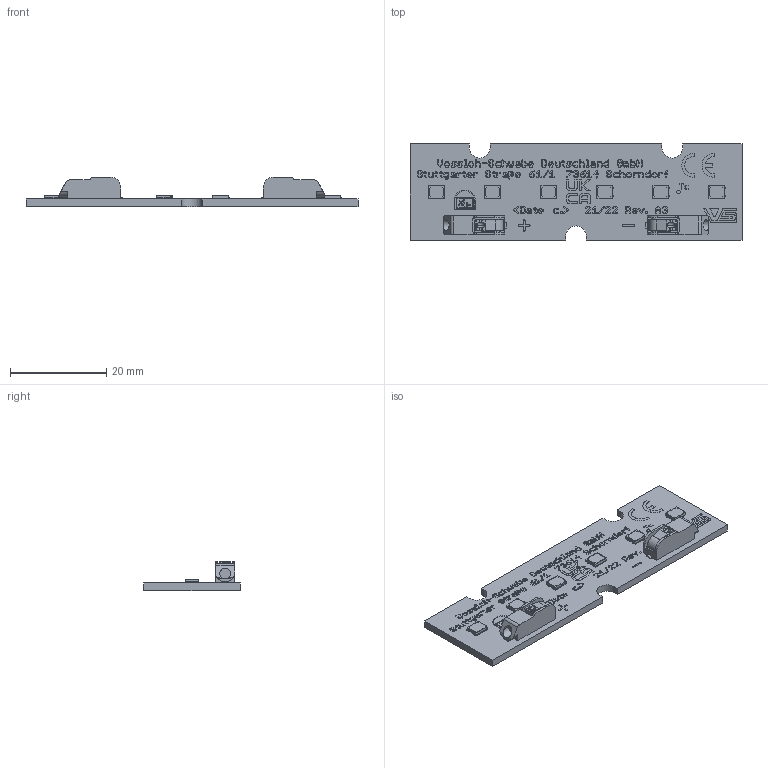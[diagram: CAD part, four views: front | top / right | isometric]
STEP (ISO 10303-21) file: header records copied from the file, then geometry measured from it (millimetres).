
FILE_DESCRIPTION(('Creo Elements/Direct Modeling STEP Export'),'2;1');
FILE_NAME('3D-Model_WU-M-730-TC.pkg.stp','2024-12-04T10:09:00',(''),(''),'PTC Creo Elements/Direct Modeling STEP processor for AP214 (Solid Model)','PTC Creo Elements/Direct Modeling 19.0E 27-Jun-2016 (C) Parametric Technology GmbH','');
FILE_SCHEMA(('AUTOMOTIVE_DESIGN { 1 0 10303 214 1 1 1 1 }'));
Length unit declared in the file: millimetre
Products named in the file (120): ______STEP.ASM; _____-0_STEP.PRT; _____-0_STEP.PRT.1; 2835PCT_3D_MODEL_STEP.ASM; 2835PCT_3D_MODEL_ORIGIN_CORRECT.ASM; J_SERIES_2835.STEP; P1-220.PRT; ______STEP_ASM.ASM; 2835PCT_3D_MODEL_STEP_ASM.ASM; J_SERIES_2835_STEP.ASM; P1_15.PRT; P1_11.PRT; P1_14.PRT; P1_6.PRT; P1_13.PRT; P1_10.PRT; P1_12.PRT; P1_8.PRT; P1_9.PRT; P1_16.PRT; P1_7.PRT; P1_83.PRT; P1_87.PRT; P1_89.PRT; P1_85.PRT; P1_88.PRT; P1_84.PRT; P1_86.PRT; P1_82.PRT; P1_81.PRT; P1_91.PRT; P1_90.PRT; P1_27.PRT; P1_25.PRT; P1_24.PRT; P1_21.PRT; P1_19.PRT; P1_22.PRT; P1_26.PRT; P1_20.PRT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
Assembly tree (122 placements, depth 5):
  J_SERIES_2835.STEP
    2835PCT_3D_MODEL_ORIGIN_CORRECT.ASM
      2835PCT_3D_MODEL_STEP.ASM
        _____-0_STEP.PRT.1  x3
        _____-0_STEP.PRT  x3
        ______STEP.ASM
  3D-MODEL_WU-M-730-TC_PKG.stp
    2060-451_998-404_STP.ASM
      2060-451_998-404_PRT.PRT
      2060-451_998-404_PRT_1.PRT
    3D-PLATE_WU-M-730.PRT
    3D-TEXT.ASM
      P1_31.PRT
      P1_29.PRT
      P1_32.PRT
      P1_33.PRT
      P1_34.PRT
      P1_37.PRT
      P1_35.PRT
      P1_30.PRT
      P1_36.PRT
      P1_28.PRT
      P1_38.PRT
      P1-429380.PRT
      P1_78.PRT
      P1_70.PRT
      P1_80.PRT
      P1_73.PRT
      P1_76.PRT
      P1_72.PRT
      P1_77.PRT
      P1_75.PRT
      P1_79.PRT
      P1_71.PRT
      P1_74.PRT
      P1_4.PRT
      P1_5.PRT
      P1_2.PRT
      P1_1.PRT
      P1_3.PRT
      P1_61.PRT
      P1_60.PRT
      P1_66.PRT
      P1_64.PRT
      P1_62.PRT
      P1_63.PRT
      P1_65.PRT
      P1_67.PRT
      P1_69.PRT
      P1_68.PRT
      P1_59.PRT
      P1_96.PRT
      P1_95.PRT
      P1_93.PRT
      P1_100.PRT
      P1_101.PRT
      P1_92.PRT
      P1_102.PRT
      P1_98.PRT
      P1_97.PRT
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Bounding box: 69 x 20 x 6.1 mm (x, y, z)
Volume: 2448.7 mm3; surface area: 4080.7 mm2
Topology: 106 solids, 136 shells, 3287 faces, 8911 edges, 5880 vertices
Faces by surface type: plane 2532, cylinder 751, sphere 4
Entity records: 109221 total; most frequent: CARTESIAN_POINT 15311, ORIENTED_EDGE 14798, DIRECTION 14325, EDGE_CURVE 7391, VECTOR 6017, LINE 6017, VERTEX_POINT 4908, AXIS2_PLACEMENT_3D 4154
